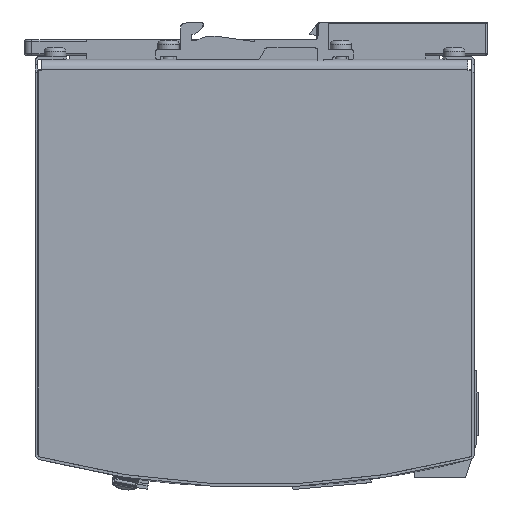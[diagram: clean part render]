
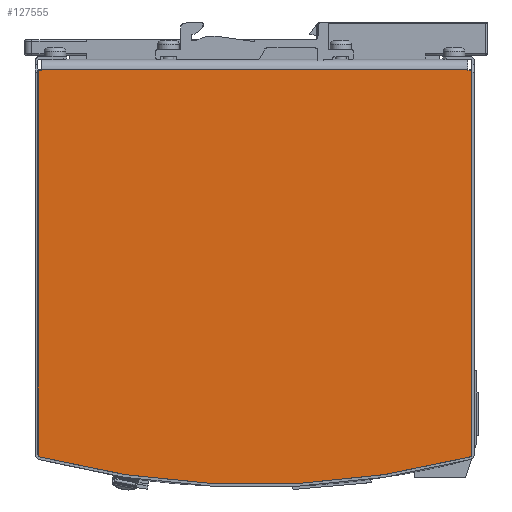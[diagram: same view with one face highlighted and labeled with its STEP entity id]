
A CAD part, left-side view. The second image highlights one B-rep face of the part: STEP entity #127555.
In plain terms, the highlighted planar face has unit normal (-1, 0, 0) as drawn and (0, 1, 0) by its records, which use the part's own axes.
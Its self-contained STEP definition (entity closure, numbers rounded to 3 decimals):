
#127292=CARTESIAN_POINT('',(112.177,27.5,60.777));
#127293=VERTEX_POINT('',#127292);
#127294=CARTESIAN_POINT('',(111.693,27.5,61.15));
#127295=VERTEX_POINT('',#127294);
#127296=CARTESIAN_POINT('',(111.693,27.5,60.65));
#127297=DIRECTION('',(0.0,-1.0,0.0));
#127298=DIRECTION('',(0.611,0.0,0.792));
#127299=AXIS2_PLACEMENT_3D('',#127296,#127297,#127298);
#127300=CIRCLE('',#127299,0.5);
#127301=EDGE_CURVE('',#127293,#127295,#127300,.T.);
#127344=CARTESIAN_POINT('',(112.177,27.5,-60.777));
#127345=VERTEX_POINT('',#127344);
#127352=CARTESIAN_POINT('',(-120.,27.5,0.));
#127353=DIRECTION('',(0.0,1.,0.0));
#127354=DIRECTION('',(-0.967,0.0,-0.255));
#127355=AXIS2_PLACEMENT_3D('',#127352,#127353,#127354);
#127356=CIRCLE('',#127355,240.0);
#127357=EDGE_CURVE('',#127293,#127345,#127356,.T.);
#127472=CARTESIAN_POINT('',(111.693,27.5,-61.15));
#127473=VERTEX_POINT('',#127472);
#127480=CARTESIAN_POINT('',(111.693,27.5,-60.65));
#127481=DIRECTION('',(0.0,-1.0,0.0));
#127482=DIRECTION('',(0.611,0.0,-0.792));
#127483=AXIS2_PLACEMENT_3D('',#127480,#127481,#127482);
#127484=CIRCLE('',#127483,0.5);
#127485=EDGE_CURVE('',#127473,#127345,#127484,.T.);
#127491=CARTESIAN_POINT('',(0.,27.5,-61.15));
#127492=DIRECTION('',(0.0,1.0,0.0));
#127493=DIRECTION('',(0.0,0.0,1.0));
#127494=AXIS2_PLACEMENT_3D('',#127491,#127492,#127493);
#127495=PLANE('',#127494);
#127496=ORIENTED_EDGE('',*,*,#127301,.F.);
#127497=ORIENTED_EDGE('',*,*,#127357,.T.);
#127498=ORIENTED_EDGE('',*,*,#127485,.F.);
#127499=CARTESIAN_POINT('',(3.1,27.5,-61.15));
#127500=VERTEX_POINT('',#127499);
#127501=CARTESIAN_POINT('',(3.1,27.5,-61.15));
#127502=DIRECTION('',(1.0,0.0,0.0));
#127503=VECTOR('',#127502,108.593);
#127504=LINE('',#127501,#127503);
#127505=EDGE_CURVE('',#127500,#127473,#127504,.T.);
#127506=ORIENTED_EDGE('',*,*,#127505,.F.);
#127507=CARTESIAN_POINT('',(3.1,27.5,-60.15));
#127508=VERTEX_POINT('',#127507);
#127509=CARTESIAN_POINT('',(3.1,27.5,-61.15));
#127510=DIRECTION('',(0.0,0.0,1.0));
#127511=VECTOR('',#127510,1.0);
#127512=LINE('',#127509,#127511);
#127513=EDGE_CURVE('',#127500,#127508,#127512,.T.);
#127514=ORIENTED_EDGE('',*,*,#127513,.T.);
#127515=CARTESIAN_POINT('',(3.,27.5,-60.15));
#127516=VERTEX_POINT('',#127515);
#127517=CARTESIAN_POINT('',(3.1,27.5,-60.15));
#127518=DIRECTION('',(-1.0,0.0,0.0));
#127519=VECTOR('',#127518,0.1);
#127520=LINE('',#127517,#127519);
#127521=EDGE_CURVE('',#127508,#127516,#127520,.T.);
#127522=ORIENTED_EDGE('',*,*,#127521,.T.);
#127523=CARTESIAN_POINT('',(3.,27.5,60.15));
#127524=VERTEX_POINT('',#127523);
#127525=CARTESIAN_POINT('',(3.,27.5,-60.15));
#127526=DIRECTION('',(0.0,0.0,1.0));
#127527=VECTOR('',#127526,120.3);
#127528=LINE('',#127525,#127527);
#127529=EDGE_CURVE('',#127516,#127524,#127528,.T.);
#127530=ORIENTED_EDGE('',*,*,#127529,.T.);
#127531=CARTESIAN_POINT('',(3.1,27.5,60.15));
#127532=VERTEX_POINT('',#127531);
#127533=CARTESIAN_POINT('',(3.,27.5,60.15));
#127534=DIRECTION('',(1.0,0.0,0.0));
#127535=VECTOR('',#127534,0.1);
#127536=LINE('',#127533,#127535);
#127537=EDGE_CURVE('',#127524,#127532,#127536,.T.);
#127538=ORIENTED_EDGE('',*,*,#127537,.T.);
#127539=CARTESIAN_POINT('',(3.1,27.5,61.15));
#127540=VERTEX_POINT('',#127539);
#127541=CARTESIAN_POINT('',(3.1,27.5,60.15));
#127542=DIRECTION('',(0.0,0.0,1.0));
#127543=VECTOR('',#127542,1.0);
#127544=LINE('',#127541,#127543);
#127545=EDGE_CURVE('',#127532,#127540,#127544,.T.);
#127546=ORIENTED_EDGE('',*,*,#127545,.T.);
#127547=CARTESIAN_POINT('',(3.1,27.5,61.15));
#127548=DIRECTION('',(1.0,0.0,0.0));
#127549=VECTOR('',#127548,108.593);
#127550=LINE('',#127547,#127549);
#127551=EDGE_CURVE('',#127540,#127295,#127550,.T.);
#127552=ORIENTED_EDGE('',*,*,#127551,.T.);
#127553=EDGE_LOOP('',(#127496,#127497,#127498,#127506,#127514,#127522,#127530,#127538,#127546,#127552));
#127554=FACE_OUTER_BOUND('',#127553,.T.);
#127555=ADVANCED_FACE('',(#127554),#127495,.T.);
